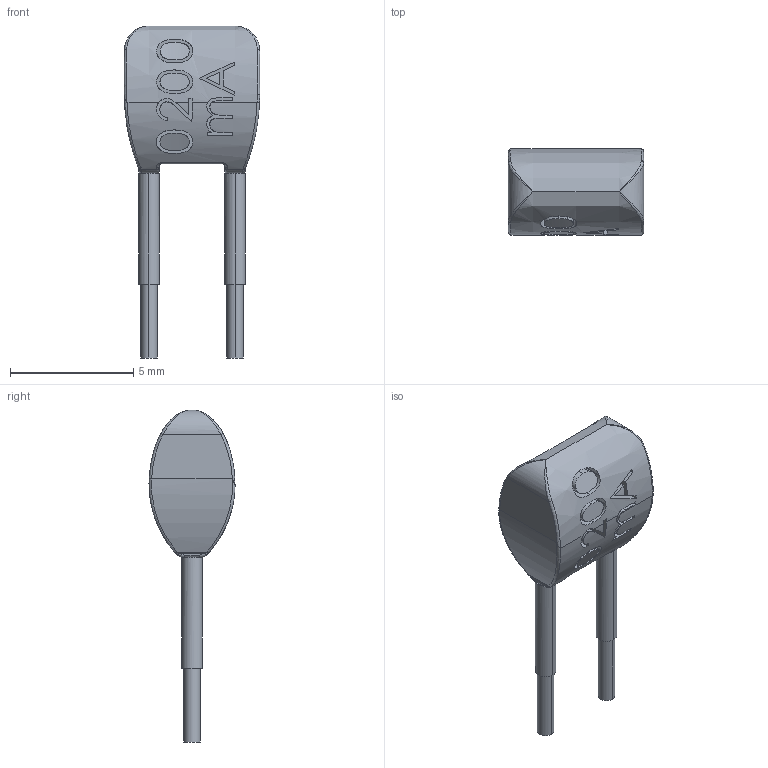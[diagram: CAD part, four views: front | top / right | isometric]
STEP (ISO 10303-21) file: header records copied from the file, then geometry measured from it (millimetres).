
FILE_DESCRIPTION((''),'2;1');
FILE_NAME('15012382Z_5-5X3-5X6_I-SELECT','2018-05-02T14:42:04',('juergen.hrach'),(''),'CREO PARAMETRIC BY PTC INC, 2017380','CREO PARAMETRIC BY PTC INC, 2017380','');
FILE_SCHEMA(('AUTOMOTIVE_DESIGN { 1 0 10303 214 1 1 1 1 }'));
Length unit declared in the file: millimetre
Products named in the file (1): 15012382Z_5-5X3-5X6_I-SELECT
Bounding box: 5.5 x 3.5 x 13.5 mm (x, y, z)
Volume: 88.1 mm3; surface area: 215.1 mm2
Topology: 1 solids, 1 shells, 165 faces, 412 edges, 251 vertices
Faces by surface type: plane 54, extrusion 46, cylinder 31, bspline 23, revolution 11
Entity records: 11127 total; most frequent: CARTESIAN_POINT 4752, ORIENTED_EDGE 808, PRESENTATION_STYLE_ASSIGNMENT 627, DIRECTION 490, STYLED_ITEM 462, CURVE_STYLE 461, EDGE_CURVE 404, B_SPLINE_CURVE_WITH_KNOTS 253
